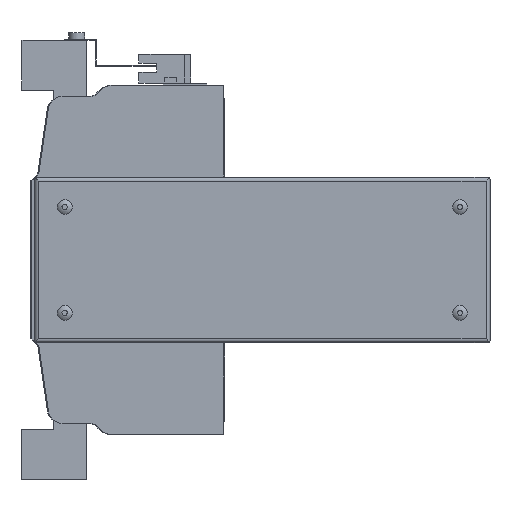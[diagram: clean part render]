
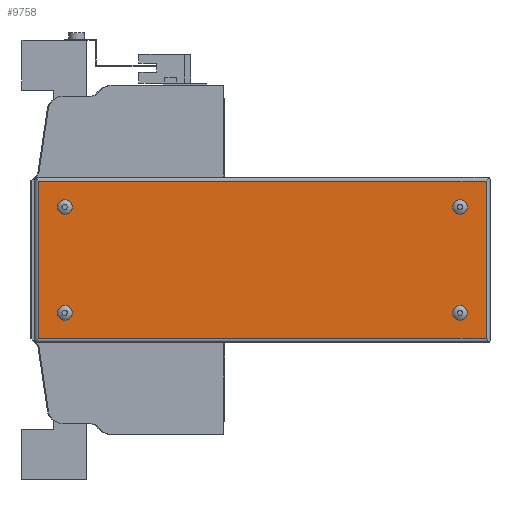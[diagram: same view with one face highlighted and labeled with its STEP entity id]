
A CAD part, left-side view. The second image highlights one B-rep face of the part: STEP entity #9758.
In plain terms, the highlighted planar face has unit normal (-1, 0, 0).
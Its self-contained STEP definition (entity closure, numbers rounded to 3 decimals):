
#283=PLANE('',#10503);
#981=LINE('',#15016,#2052);
#982=LINE('',#15019,#2053);
#983=LINE('',#15021,#2054);
#984=LINE('',#15023,#2055);
#2052=VECTOR('',#12176,1000.);
#2053=VECTOR('',#12177,1000.);
#2054=VECTOR('',#12178,1000.);
#2055=VECTOR('',#12179,1000.);
#3794=ORIENTED_EDGE('',*,*,#5969,.F.);
#3795=ORIENTED_EDGE('',*,*,#5970,.F.);
#3796=ORIENTED_EDGE('',*,*,#5971,.F.);
#3797=ORIENTED_EDGE('',*,*,#5972,.F.);
#3798=ORIENTED_EDGE('',*,*,#5973,.F.);
#3799=ORIENTED_EDGE('',*,*,#5974,.F.);
#3800=ORIENTED_EDGE('',*,*,#5975,.T.);
#3801=ORIENTED_EDGE('',*,*,#5976,.T.);
#5969=EDGE_CURVE('',#7163,#7163,#7811,.F.);
#5970=EDGE_CURVE('',#7164,#7164,#7812,.F.);
#5971=EDGE_CURVE('',#7165,#7165,#7813,.F.);
#5972=EDGE_CURVE('',#7166,#7166,#7814,.F.);
#5973=EDGE_CURVE('',#7167,#7168,#981,.T.);
#5974=EDGE_CURVE('',#7169,#7167,#982,.T.);
#5975=EDGE_CURVE('',#7169,#7170,#983,.T.);
#5976=EDGE_CURVE('',#7170,#7168,#984,.T.);
#7163=VERTEX_POINT('',#15009);
#7164=VERTEX_POINT('',#15011);
#7165=VERTEX_POINT('',#15013);
#7166=VERTEX_POINT('',#15015);
#7167=VERTEX_POINT('',#15017);
#7168=VERTEX_POINT('',#15018);
#7169=VERTEX_POINT('',#15020);
#7170=VERTEX_POINT('',#15022);
#7811=CIRCLE('',#10504,3.7);
#7812=CIRCLE('',#10505,3.7);
#7813=CIRCLE('',#10506,3.7);
#7814=CIRCLE('',#10507,3.7);
#8264=EDGE_LOOP('',(#3794));
#8265=EDGE_LOOP('',(#3795));
#8266=EDGE_LOOP('',(#3796));
#8267=EDGE_LOOP('',(#3797));
#8268=EDGE_LOOP('',(#3798,#3799,#3800,#3801));
#8977=FACE_BOUND('',#8264,.T.);
#8978=FACE_BOUND('',#8265,.T.);
#8979=FACE_BOUND('',#8266,.T.);
#8980=FACE_BOUND('',#8267,.T.);
#8981=FACE_BOUND('',#8268,.T.);
#9758=ADVANCED_FACE('',(#8977,#8978,#8979,#8980,#8981),#283,.F.);
#10503=AXIS2_PLACEMENT_3D('',#15007,#12166,#12167);
#10504=AXIS2_PLACEMENT_3D('',#15008,#12168,#12169);
#10505=AXIS2_PLACEMENT_3D('',#15010,#12170,#12171);
#10506=AXIS2_PLACEMENT_3D('',#15012,#12172,#12173);
#10507=AXIS2_PLACEMENT_3D('',#15014,#12174,#12175);
#12166=DIRECTION('',(1.,0.,0.));
#12167=DIRECTION('',(0.,0.,-1.));
#12168=DIRECTION('',(1.,0.,0.));
#12169=DIRECTION('',(0.,0.,-1.));
#12170=DIRECTION('',(1.,0.,0.));
#12171=DIRECTION('',(0.,0.,-1.));
#12172=DIRECTION('',(1.,0.,0.));
#12173=DIRECTION('',(0.,0.,-1.));
#12174=DIRECTION('',(1.,0.,0.));
#12175=DIRECTION('',(0.,0.,-1.));
#12176=DIRECTION('',(0.,-1.,0.));
#12177=DIRECTION('',(0.,0.,1.));
#12178=DIRECTION('',(0.,-1.,0.));
#12179=DIRECTION('',(0.,0.,1.));
#15007=CARTESIAN_POINT('',(-66.,-131.95,40.5));
#15008=CARTESIAN_POINT('',(-66.,-117.95,26.5));
#15009=CARTESIAN_POINT('',(-66.,-117.95,22.8));
#15010=CARTESIAN_POINT('',(-66.,-117.95,-26.5));
#15011=CARTESIAN_POINT('',(-66.,-117.95,-30.2));
#15012=CARTESIAN_POINT('',(-66.,80.05,26.5));
#15013=CARTESIAN_POINT('',(-66.,80.05,22.8));
#15014=CARTESIAN_POINT('',(-66.,80.05,-26.5));
#15015=CARTESIAN_POINT('',(-66.,80.05,-30.2));
#15016=CARTESIAN_POINT('',(-66.,228.,39.5));
#15017=CARTESIAN_POINT('',(-66.,93.05,39.5));
#15018=CARTESIAN_POINT('',(-66.,-130.95,39.5));
#15019=CARTESIAN_POINT('',(-66.,93.05,-83.));
#15020=CARTESIAN_POINT('',(-66.,93.05,-39.5));
#15021=CARTESIAN_POINT('',(-66.,228.,-39.5));
#15022=CARTESIAN_POINT('',(-66.,-130.95,-39.5));
#15023=CARTESIAN_POINT('',(-66.,-130.95,-83.));
